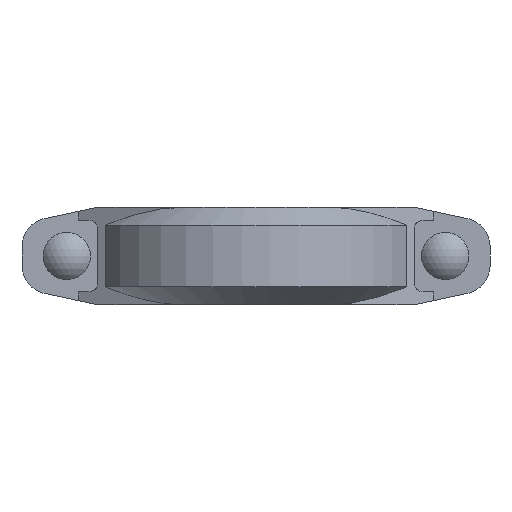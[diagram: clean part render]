
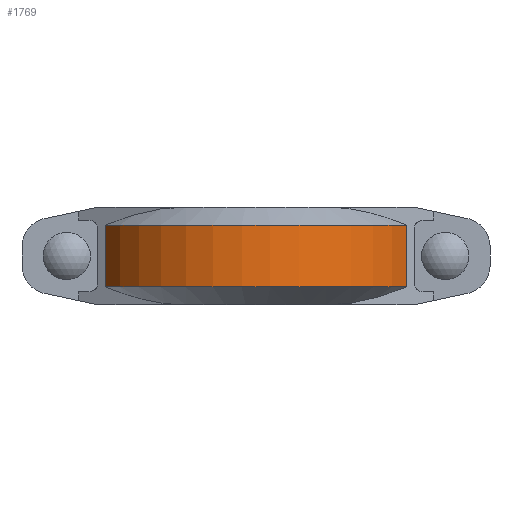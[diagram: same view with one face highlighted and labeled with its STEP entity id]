
A CAD part, front view. The second image highlights one B-rep face of the part: STEP entity #1769.
In plain terms, the highlighted cylindrical face has radius 89.281 mm (diameter 178.562 mm), a partial arc.
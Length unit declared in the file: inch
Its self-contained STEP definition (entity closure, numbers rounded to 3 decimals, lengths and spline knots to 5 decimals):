
#206=FACE_OUTER_BOUND('',#303,.T.);
#303=EDGE_LOOP('',(#1497,#1498,#1499,#1500));
#378=LINE('',#2666,#535);
#434=LINE('',#2829,#591);
#535=VECTOR('',#2139,0.3937);
#591=VECTOR('',#2271,0.3937);
#677=CIRCLE('',#1911,3.515);
#681=CIRCLE('',#1918,3.515);
#764=VERTEX_POINT('',#2661);
#765=VERTEX_POINT('',#2665);
#821=VERTEX_POINT('',#2824);
#822=VERTEX_POINT('',#2828);
#946=EDGE_CURVE('',#765,#764,#378,.T.);
#1021=EDGE_CURVE('',#822,#821,#434,.T.);
#1042=EDGE_CURVE('',#764,#822,#677,.T.);
#1049=EDGE_CURVE('',#765,#821,#681,.T.);
#1497=ORIENTED_EDGE('',*,*,#946,.T.);
#1498=ORIENTED_EDGE('',*,*,#1042,.T.);
#1499=ORIENTED_EDGE('',*,*,#1021,.T.);
#1500=ORIENTED_EDGE('',*,*,#1049,.F.);
#1601=CYLINDRICAL_SURFACE('',#1935,3.515);
#1769=ADVANCED_FACE('',(#206),#1601,.T.);
#1911=AXIS2_PLACEMENT_3D('',#2866,#2310,#2311);
#1918=AXIS2_PLACEMENT_3D('',#2880,#2327,#2328);
#1935=AXIS2_PLACEMENT_3D('',#2919,#2375,#2376);
#2139=DIRECTION('',(0.,0.,1.));
#2271=DIRECTION('',(0.,0.,-1.));
#2310=DIRECTION('center_axis',(0.,0.,-1.));
#2311=DIRECTION('ref_axis',(0.,-1.,0.));
#2327=DIRECTION('center_axis',(0.,0.,-1.));
#2328=DIRECTION('ref_axis',(0.,-1.,0.));
#2375=DIRECTION('center_axis',(0.,0.,-1.));
#2376=DIRECTION('ref_axis',(0.,-1.,0.));
#2661=CARTESIAN_POINT('',(3.18355,-1.49005,0.655));
#2665=CARTESIAN_POINT('',(3.18355,-1.49005,-0.655));
#2666=CARTESIAN_POINT('',(3.18355,-1.49005,0.));
#2824=CARTESIAN_POINT('',(-3.18355,-1.49005,-0.655));
#2828=CARTESIAN_POINT('',(-3.18355,-1.49005,0.655));
#2829=CARTESIAN_POINT('',(-3.18355,-1.49005,0.));
#2866=CARTESIAN_POINT('Origin',(0.,0.,0.655));
#2880=CARTESIAN_POINT('Origin',(0.,0.,-0.655));
#2919=CARTESIAN_POINT('Origin',(0.,0.,0.));
